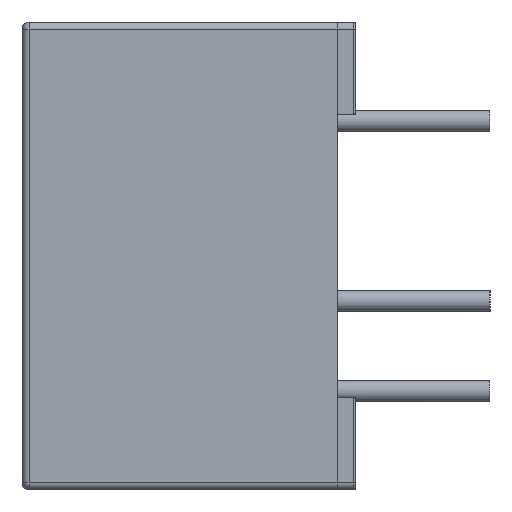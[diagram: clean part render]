
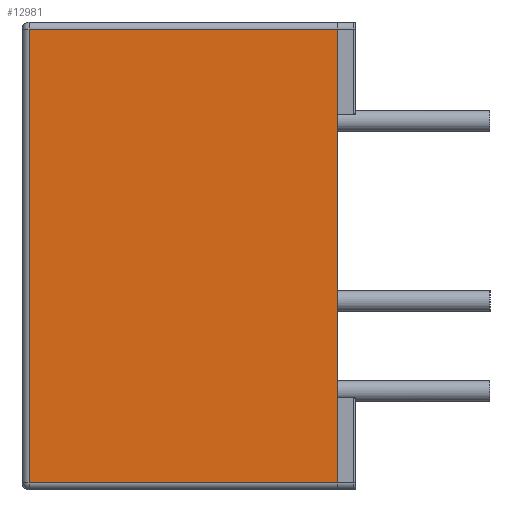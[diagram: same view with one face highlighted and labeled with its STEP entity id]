
A CAD part, left-side view. The second image highlights one B-rep face of the part: STEP entity #12981.
In plain terms, the highlighted planar face has unit normal (-1, 0, 0).
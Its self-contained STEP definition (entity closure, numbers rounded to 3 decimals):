
#12776 = VERTEX_POINT ( 'NONE', #23949 ) ;
#12778 = EDGE_CURVE ( 'NONE', #12779, #12776, #23948, .T. ) ;
#12779 = VERTEX_POINT ( 'NONE', #23944 ) ;
#12961 = EDGE_CURVE ( 'NONE', #12988, #12962, #24281, .T. ) ;
#12962 = VERTEX_POINT ( 'NONE', #24277 ) ;
#12964 = ORIENTED_EDGE ( 'NONE', *, *, #12965, .T. ) ;
#12965 = EDGE_CURVE ( 'NONE', #12962, #12966, #24346, .T. ) ;
#12966 = VERTEX_POINT ( 'NONE', #24342 ) ;
#12967 = ORIENTED_EDGE ( 'NONE', *, *, #12968, .T. ) ;
#12968 = EDGE_CURVE ( 'NONE', #12966, #12779, #24322, .T. ) ;
#12969 = ORIENTED_EDGE ( 'NONE', *, *, #12778, .T. ) ;
#12981 = ADVANCED_FACE ( 'NONE', ( #24364 ), #24363, .T. ) ;
#12982 = EDGE_LOOP ( 'NONE', ( #12983, #12986, #16137, #12964, #12967, #12969 ) ) ;
#12983 = ORIENTED_EDGE ( 'NONE', *, *, #12984, .T. ) ;
#12984 = EDGE_CURVE ( 'NONE', #12776, #12985, #24361, .T. ) ;
#12985 = VERTEX_POINT ( 'NONE', #24353 ) ;
#12986 = ORIENTED_EDGE ( 'NONE', *, *, #12987, .T. ) ;
#12987 = EDGE_CURVE ( 'NONE', #12985, #12988, #24352, .T. ) ;
#12988 = VERTEX_POINT ( 'NONE', #24348 ) ;
#16137 = ORIENTED_EDGE ( 'NONE', *, *, #12961, .T. ) ;
#23944 = CARTESIAN_POINT ( 'NONE',  ( -14.5, 0., -4. ) ) ;
#23945 = DIRECTION ( 'NONE',  ( 0., 0., 1. ) ) ;
#23946 = VECTOR ( 'NONE', #23945, 1000. ) ;
#23947 = CARTESIAN_POINT ( 'NONE',  ( -14.5, 0., 6.6 ) ) ;
#23948 = LINE ( 'NONE', #23947, #23946 ) ;
#23949 = CARTESIAN_POINT ( 'NONE',  ( -14.5, 0., 4. ) ) ;
#24277 = CARTESIAN_POINT ( 'NONE',  ( -14.497, 8.69, -6.397 ) ) ;
#24278 = DIRECTION ( 'NONE',  ( 0., 0., -1. ) ) ;
#24279 = VECTOR ( 'NONE', #24278, 1000. ) ;
#24280 = CARTESIAN_POINT ( 'NONE',  ( -14.497, 8.69, -6.597 ) ) ;
#24281 = LINE ( 'NONE', #24280, #24279 ) ;
#24318 = DIRECTION ( 'NONE',  ( 0., 0., 1. ) ) ;
#24319 = VECTOR ( 'NONE', #24318, 1000. ) ;
#24320 = CARTESIAN_POINT ( 'NONE',  ( -14.5, 0., 6.6 ) ) ;
#24322 = LINE ( 'NONE', #24320, #24319 ) ;
#24342 = CARTESIAN_POINT ( 'NONE',  ( -14.5, 0., -6.4 ) ) ;
#24343 = DIRECTION ( 'NONE',  ( 0., -1., 0. ) ) ;
#24344 = VECTOR ( 'NONE', #24343, 1000. ) ;
#24345 = CARTESIAN_POINT ( 'NONE',  ( -14.5, 0.005, -6.4 ) ) ;
#24346 = LINE ( 'NONE', #24345, #24344 ) ;
#24348 = CARTESIAN_POINT ( 'NONE',  ( -14.497, 8.69, 6.397 ) ) ;
#24349 = DIRECTION ( 'NONE',  ( 0., 1., 0. ) ) ;
#24350 = VECTOR ( 'NONE', #24349, 1000. ) ;
#24351 = CARTESIAN_POINT ( 'NONE',  ( -14.5, 0., 6.4 ) ) ;
#24352 = LINE ( 'NONE', #24351, #24350 ) ;
#24353 = CARTESIAN_POINT ( 'NONE',  ( -14.5, 0., 6.4 ) ) ;
#24354 = DIRECTION ( 'NONE',  ( 0., 0., 1. ) ) ;
#24355 = VECTOR ( 'NONE', #24354, 1000. ) ;
#24356 = CARTESIAN_POINT ( 'NONE',  ( -14.5, 0., 6.6 ) ) ;
#24357 = DIRECTION ( 'NONE',  ( 0., -1., 0. ) ) ;
#24359 = DIRECTION ( 'NONE',  ( -1., 0., 0. ) ) ;
#24360 = CARTESIAN_POINT ( 'NONE',  ( -14.5, 0., 6.6 ) ) ;
#24361 = LINE ( 'NONE', #24356, #24355 ) ;
#24362 = AXIS2_PLACEMENT_3D ( 'NONE', #24360, #24359, #24357 ) ;
#24363 = PLANE ( 'NONE',  #24362 ) ;
#24364 = FACE_OUTER_BOUND ( 'NONE', #12982, .T. ) ;
